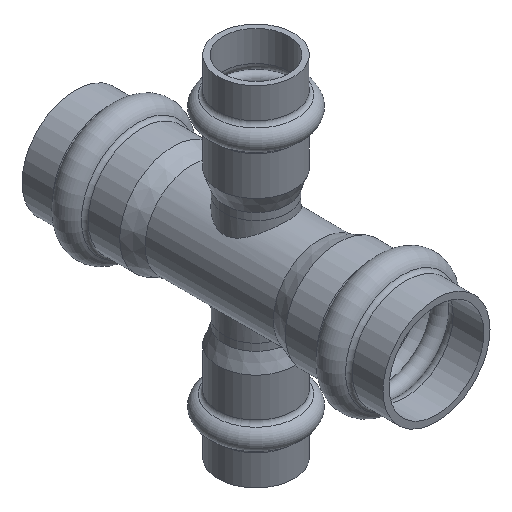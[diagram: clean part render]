
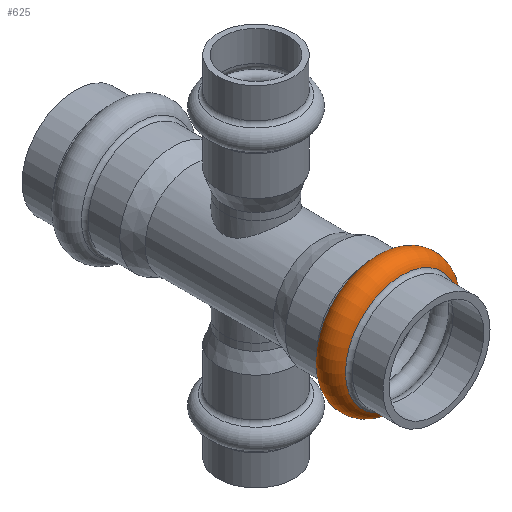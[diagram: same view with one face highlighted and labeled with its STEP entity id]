
A CAD part, isometric view. The second image highlights one B-rep face of the part: STEP entity #625.
In plain terms, the highlighted toroidal (fillet/blend) face has major radius 12.116 mm and minor radius 3.434 mm.
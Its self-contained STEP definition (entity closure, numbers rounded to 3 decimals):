
#625=ADVANCED_FACE('',(#1101,#1103),#1105,.T.);
#1101=FACE_OUTER_BOUND('',#1102,.T.);
#1102=EDGE_LOOP('',(#1387));
#1103=FACE_OUTER_BOUND('',#1104,.T.);
#1104=EDGE_LOOP('',(#1388));
#1105=TOROIDAL_SURFACE('',#1106,12.116,3.434);
#1106=AXIS2_PLACEMENT_3D('',#1107,#1108,#1109);
#1107=CARTESIAN_POINT('',(0.,-31.1,0.));
#1108=DIRECTION('',(0.,1.,0.));
#1109=DIRECTION('',(0.,0.,1.));
#1387=ORIENTED_EDGE('',*,*,#1463,.F.);
#1388=ORIENTED_EDGE('',*,*,#1467,.T.);
#1463=EDGE_CURVE('',#1546,#1546,#1547,.T.);
#1467=EDGE_CURVE('',#1554,#1554,#1555,.T.);
#1546=VERTEX_POINT('',#2638);
#1547=CIRCLE('',#2639,13.265);
#1554=VERTEX_POINT('',#2658);
#1555=CIRCLE('',#2659,13.265);
#2638=CARTESIAN_POINT('',(0.,-27.864,13.265));
#2639=AXIS2_PLACEMENT_3D('',#2640,#2641,#2642);
#2640=CARTESIAN_POINT('',(0.,-27.864,0.));
#2641=DIRECTION('',(0.,1.,0.));
#2642=DIRECTION('',(0.,0.,1.));
#2658=CARTESIAN_POINT('',(0.,-34.336,13.265));
#2659=AXIS2_PLACEMENT_3D('',#2660,#2661,#2662);
#2660=CARTESIAN_POINT('',(0.,-34.336,0.));
#2661=DIRECTION('',(0.,1.,0.));
#2662=DIRECTION('',(0.,0.,1.));
